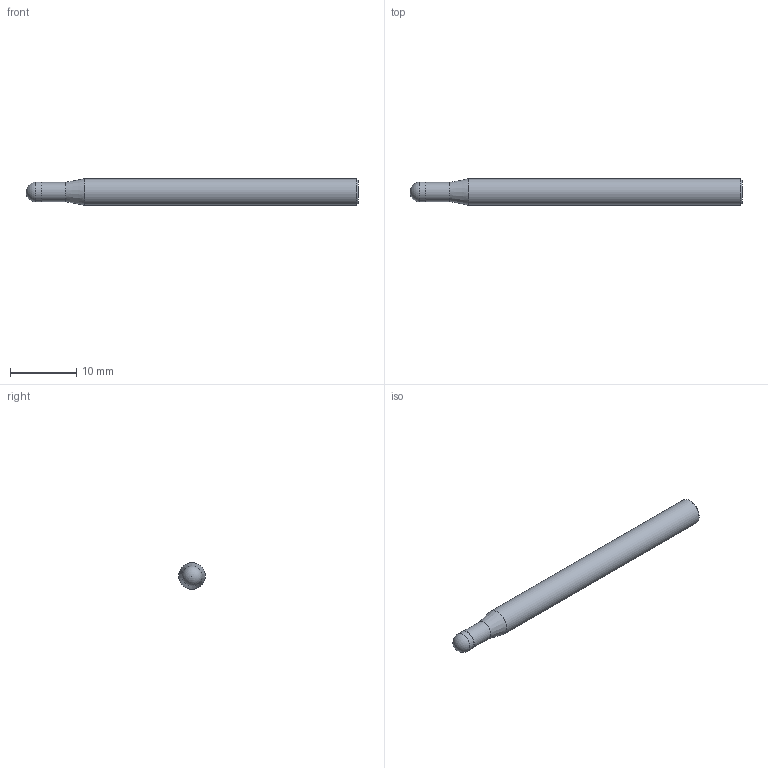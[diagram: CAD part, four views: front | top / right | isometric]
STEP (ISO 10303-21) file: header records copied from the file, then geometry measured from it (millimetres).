
FILE_DESCRIPTION(/* description */ (''),/* implementation_level */ '2;1');
FILE_NAME(/* name */ 'HSXB2030 0450.stp',/* time_stamp */ '2026-08-01T16:34:56+08:00',/* author */ (''),/* organization */ (''),/* preprocessor_version */ 'ST-DEVELOPER v16',/* originating_system */ 'SIEMENS PLM Software NX 10.0',/* authorisation */ '');
FILE_SCHEMA (('CONFIG_CONTROL_DESIGN'));
Length unit declared in the file: millimetre
Products named in the file (1): HSXB2030 0450_dxf
Bounding box: 50 x 4 x 4 mm (x, y, z)
Volume: 581 mm3; surface area: 628.7 mm2
Topology: 2 solids, 2 shells, 9 faces, 15 edges, 9 vertices
Faces by surface type: plane 3, cylinder 3, cone 2, sphere 1
Full cylindrical faces by diameter (mm): 2.9 x1, 3 x1, 4 x1
Entity records: 246 total; most frequent: DIRECTION 34, CARTESIAN_POINT 24, AXIS2_PLACEMENT_3D 17, EDGE_LOOP 14, ORIENTED_EDGE 14, FACE_BOUND 10, ADVANCED_FACE 9, PERSON_AND_ORGANIZATION 7
